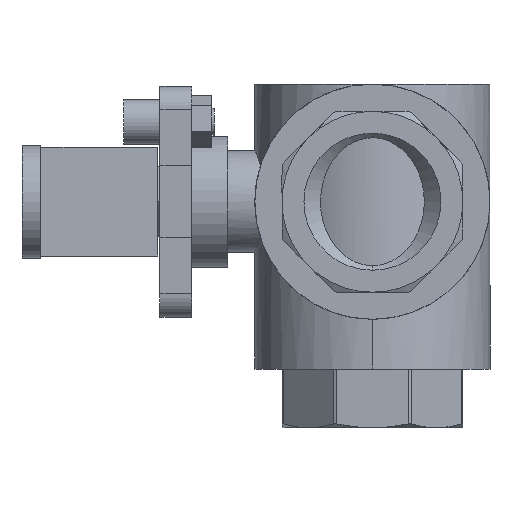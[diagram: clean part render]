
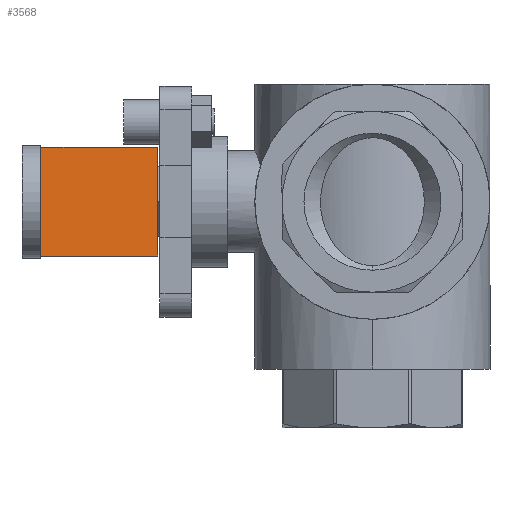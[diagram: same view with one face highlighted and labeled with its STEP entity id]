
A CAD part, left-side view. The second image highlights one B-rep face of the part: STEP entity #3568.
In plain terms, the highlighted planar face has unit normal (-0.707, -0.707, 0).
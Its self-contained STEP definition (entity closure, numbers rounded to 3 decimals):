
#2 = VECTOR ( 'NONE', #6120, 1000. ) ;
#124 = VERTEX_POINT ( 'NONE', #4386 ) ;
#128 = VECTOR ( 'NONE', #392, 1000. ) ;
#292 = EDGE_CURVE ( 'NONE', #124, #1712, #2720, .T. ) ;
#298 = LINE ( 'NONE', #6581, #128 ) ;
#392 = DIRECTION ( 'NONE',  ( 0., 0., -1. ) ) ;
#598 = CARTESIAN_POINT ( 'NONE',  ( -52., 74., 12. ) ) ;
#762 = EDGE_CURVE ( 'NONE', #2550, #1493, #298, .T. ) ;
#1351 = VECTOR ( 'NONE', #5276, 1000. ) ;
#1386 = CARTESIAN_POINT ( 'NONE',  ( -25.5, 47.5, -12. ) ) ;
#1493 = VERTEX_POINT ( 'NONE', #4533 ) ;
#1658 = DIRECTION ( 'NONE',  ( 0.707, 0.707, 0. ) ) ;
#1712 = VERTEX_POINT ( 'NONE', #1386 ) ;
#1740 = CARTESIAN_POINT ( 'NONE',  ( -52., 74., 12. ) ) ;
#1980 = EDGE_CURVE ( 'NONE', #2550, #124, #2051, .T. ) ;
#2051 = LINE ( 'NONE', #2880, #3427 ) ;
#2462 = AXIS2_PLACEMENT_3D ( 'NONE', #598, #1658, #5267 ) ;
#2550 = VERTEX_POINT ( 'NONE', #1740 ) ;
#2706 = ORIENTED_EDGE ( 'NONE', *, *, #292, .F. ) ;
#2720 = LINE ( 'NONE', #4239, #1351 ) ;
#2880 = CARTESIAN_POINT ( 'NONE',  ( -52., 74., 12. ) ) ;
#3427 = VECTOR ( 'NONE', #3919, 1000. ) ;
#3568 = ADVANCED_FACE ( 'NONE', ( #5989 ), #3720, .F. ) ;
#3720 = PLANE ( 'NONE',  #2462 ) ;
#3812 = EDGE_LOOP ( 'NONE', ( #5392, #2706, #4725, #5909 ) ) ;
#3919 = DIRECTION ( 'NONE',  ( 0.707, -0.707, 0. ) ) ;
#4239 = CARTESIAN_POINT ( 'NONE',  ( -25.5, 47.5, 12. ) ) ;
#4386 = CARTESIAN_POINT ( 'NONE',  ( -25.5, 47.5, 12. ) ) ;
#4533 = CARTESIAN_POINT ( 'NONE',  ( -52., 74., -12. ) ) ;
#4725 = ORIENTED_EDGE ( 'NONE', *, *, #1980, .F. ) ;
#5267 = DIRECTION ( 'NONE',  ( -0.707, 0.707, 0. ) ) ;
#5276 = DIRECTION ( 'NONE',  ( 0., 0., -1. ) ) ;
#5340 = LINE ( 'NONE', #5598, #2 ) ;
#5392 = ORIENTED_EDGE ( 'NONE', *, *, #6342, .T. ) ;
#5598 = CARTESIAN_POINT ( 'NONE',  ( -52., 74., -12. ) ) ;
#5909 = ORIENTED_EDGE ( 'NONE', *, *, #762, .T. ) ;
#5989 = FACE_OUTER_BOUND ( 'NONE', #3812, .T. ) ;
#6120 = DIRECTION ( 'NONE',  ( 0.707, -0.707, 0. ) ) ;
#6342 = EDGE_CURVE ( 'NONE', #1493, #1712, #5340, .T. ) ;
#6581 = CARTESIAN_POINT ( 'NONE',  ( -52., 74., 12. ) ) ;
